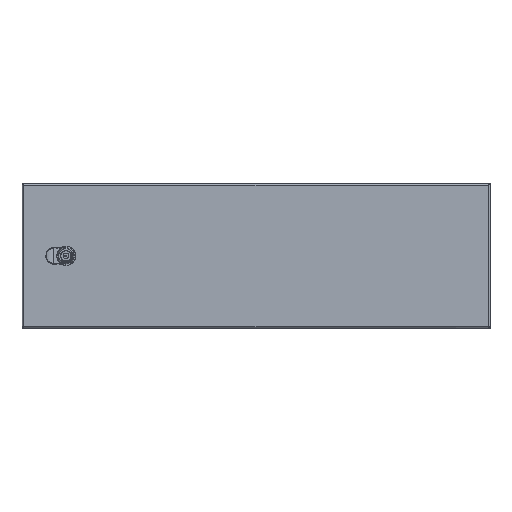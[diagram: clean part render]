
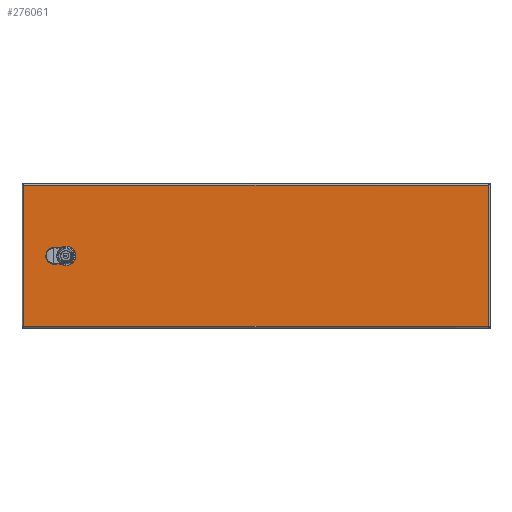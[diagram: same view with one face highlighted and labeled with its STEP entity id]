
A CAD part, top view. The second image highlights one B-rep face of the part: STEP entity #276061.
In plain terms, the highlighted planar face has unit normal (0, 0, 1).
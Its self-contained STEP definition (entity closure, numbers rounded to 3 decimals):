
#267686=CARTESIAN_POINT(' ',(-399.011,122.733,269.003));
#267687=VERTEX_POINT(' ',#267686);
#269121=CARTESIAN_POINT(' ',(389.389,122.733,269.003));
#269122=VERTEX_POINT(' ',#269121);
#270036=CARTESIAN_POINT(' ',(389.389,122.733,269.003));
#270041=DIRECTION(' ',(-1.,0.,0.));
#270046=VECTOR(' ',#270041,1.);
#270051=LINE('',#270036,#270046);
#270056=EDGE_CURVE(' ',#269122,#267687,#270051,.T.);
#273916=CARTESIAN_POINT(' ',(389.389,-116.667,269.003));
#273917=VERTEX_POINT(' ',#273916);
#275501=CARTESIAN_POINT(' ',(-399.011,-116.667,269.003));
#275502=VERTEX_POINT(' ',#275501);
#275931=DIRECTION(' ',(-0.,-0.,1.));
#275936=CARTESIAN_POINT(' ',(389.389,-116.667,269.003));
#275941=DIRECTION(' ',(0.,1.,0.));
#275946=AXIS2_PLACEMENT_3D(' ',#275936,#275931,#275941);
#275951=PLANE('NONE',#275946);
#275956=CARTESIAN_POINT(' ',(-399.011,-116.667,269.003));
#275961=DIRECTION(' ',(1.,0.,0.));
#275966=VECTOR(' ',#275961,1.);
#275971=LINE('',#275956,#275966);
#275976=EDGE_CURVE(' ',#275502,#273917,#275971,.T.);
#275981=ORIENTED_EDGE(' ',*,*,#275976,.T.);
#275986=CARTESIAN_POINT(' ',(389.389,122.733,269.003));
#275991=DIRECTION(' ',(0.,-1.,0.));
#275996=VECTOR(' ',#275991,1.);
#276001=LINE('',#275986,#275996);
#276006=EDGE_CURVE(' ',#269122,#273917,#276001,.T.);
#276011=ORIENTED_EDGE(' ',*,*,#276006,.F.);
#276016=ORIENTED_EDGE(' ',*,*,#270056,.T.);
#276021=CARTESIAN_POINT(' ',(-399.011,122.733,269.003));
#276026=DIRECTION(' ',(0.,-1.,0.));
#276031=VECTOR(' ',#276026,1.);
#276036=LINE('',#276021,#276031);
#276041=EDGE_CURVE(' ',#267687,#275502,#276036,.T.);
#276046=ORIENTED_EDGE(' ',*,*,#276041,.T.);
#276051=EDGE_LOOP(' ',(#275981,#276011,#276016,#276046));
#276056=FACE_OUTER_BOUND(' ',#276051,.T.);
#276061=ADVANCED_FACE('NONE',(#276056),#275951,.T.);
